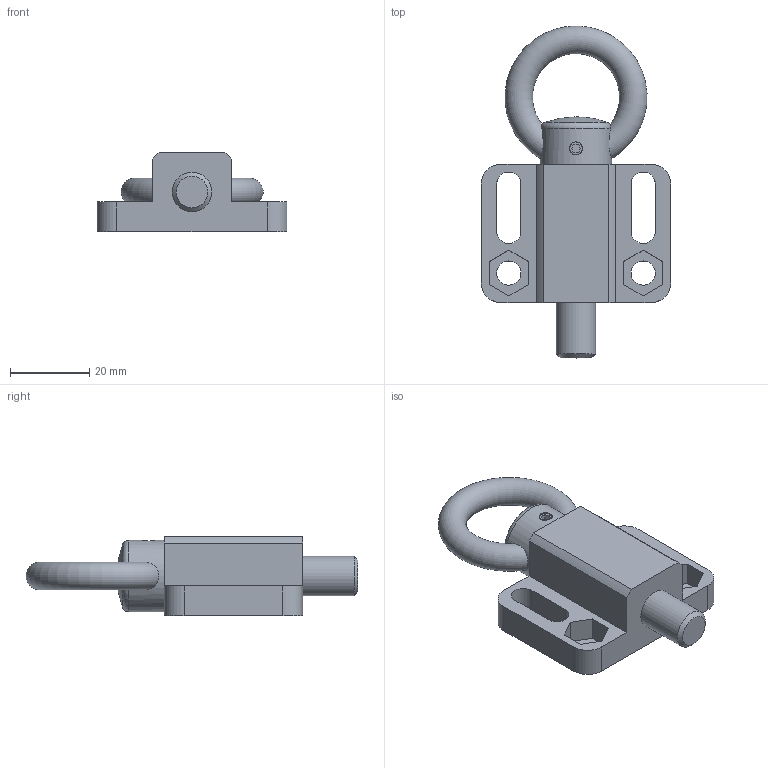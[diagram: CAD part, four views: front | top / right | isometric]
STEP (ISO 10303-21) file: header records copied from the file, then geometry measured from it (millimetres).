
FILE_DESCRIPTION(/* description */ ('STEP AP214'),/* implementation_level */ '2;1');
FILE_NAME(/* name */ 'Indexing plunger GN 722.6-10-20-A-ZB (deactivated)',/* time_stamp */ '2023-02-28T07:39:04+01:00',/* author */ ('License CC BY-ND 4.0'),/* organization */ ('CADENAS'),/* preprocessor_version */ 'ST-DEVELOPER v18.102',/* originating_system */ 'PARTsolutions',/* authorisation */ ' ');
FILE_SCHEMA (('AUTOMOTIVE_DESIGN {1 0 10303 214 3 1 1}'));
Length unit declared in the file: millimetre
Products named in the file (3): Indexing plunger GN 722.6-10-20-A-ZB (deactivated); Indexing plunger GN 722.6-10-20-A-ZB (deactivated)-2; Indexing plunger GN 722.6-10-20-A-ZB (deactivated)-1
Assembly tree (2 placements, depth 2):
  Indexing plunger GN 722.6-10-20-A-ZB (deactivated)
    Indexing plunger GN 722.6-10-20-A-ZB (deactivated)-2
    Indexing plunger GN 722.6-10-20-A-ZB (deactivated)-1
Bounding box: 48 x 83.99 x 20 mm (x, y, z)
Volume: 24610.7 mm3; surface area: 11680.9 mm2
Topology: 2 solids, 2 shells, 67 faces, 166 edges, 109 vertices
Faces by surface type: plane 42, cylinder 20, torus 2, cone 2, sphere 1
Full cylindrical faces by diameter (mm): 3.3 x1, 6.1 x2, 10 x4, 12 x2, 18 x1
Entity records: 2016 total; most frequent: CARTESIAN_POINT 370, DIRECTION 326, ORIENTED_EDGE 296, EDGE_CURVE 148, AXIS2_PLACEMENT_3D 113, VERTEX_POINT 106, LINE 100, VECTOR 100
